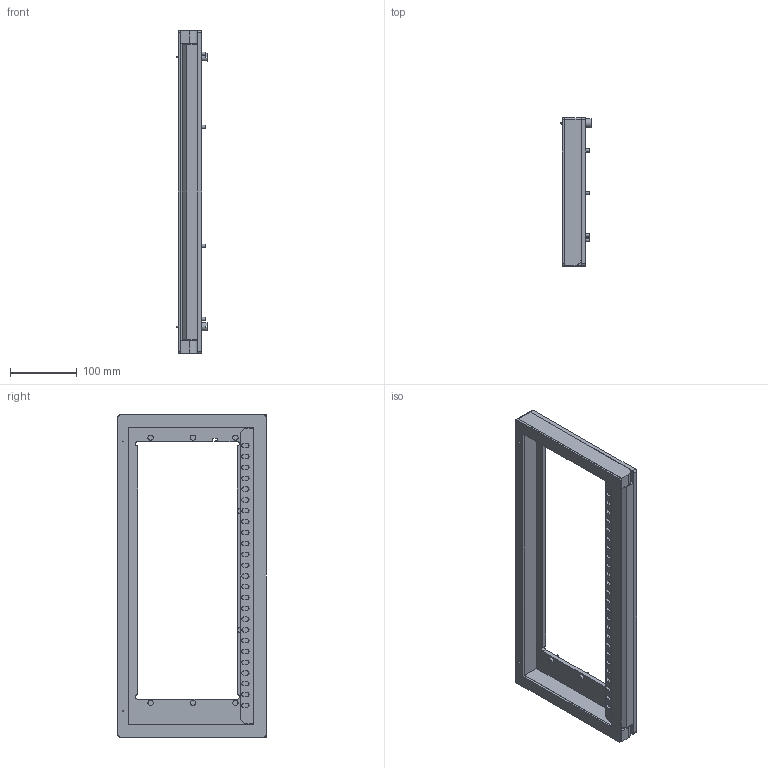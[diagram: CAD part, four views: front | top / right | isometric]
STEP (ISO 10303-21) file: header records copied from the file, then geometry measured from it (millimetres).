
FILE_DESCRIPTION((''),'2;1');
FILE_NAME('C:\old_Drawings\shrinkwrapped website .stp files\561358-STP.stp','2011-07-20T15:44:43',('GaryRobinson'),(''),'Autodesk Inventor 2011','Autodesk Inventor 2011','');
FILE_SCHEMA(('CONFIG_CONTROL_DESIGN'));
Length unit declared in the file: inch
Products named in the file (1): 561358-STP
Bounding box: 47.62 x 221.46 x 482.6 mm (x, y, z)
Surface area: 312862 mm2 (no closed solid volume)
Topology: 0 solids, 20 shells, 284 faces, 680 edges, 446 vertices
Faces by surface type: plane 153, cylinder 105, cone 22, torus 4
Full cylindrical faces by diameter (mm): 4.166 x2, 4.445 x4, 4.826 x8, 6.35 x2, 7.925 x8, 12.7 x8, 13.097 x2, 19.05 x2
Entity records: 8373 total; most frequent: DIRECTION 1404, CARTESIAN_POINT 1383, ORIENTED_EDGE 1220, EDGE_CURVE 610, AXIS2_PLACEMENT_3D 521, VERTEX_POINT 434, EDGE_LOOP 414, VECTOR 362
